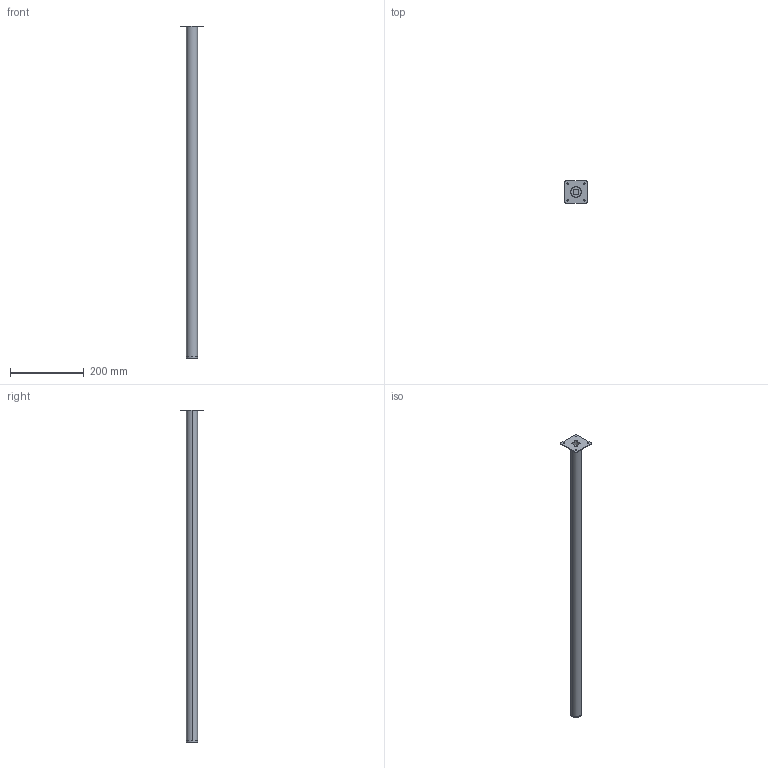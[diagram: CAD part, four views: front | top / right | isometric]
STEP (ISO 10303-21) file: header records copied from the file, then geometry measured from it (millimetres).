
FILE_DESCRIPTION( ( '' ), '1' );
FILE_NAME( 'D:/temp/hettich_stp/hettich/6.5_furniture_legs/table_legs/46275.stp', '2013-02-26T12:27:29', ( '' ), ( '' ), ' ', ' ', ' ' );
FILE_SCHEMA( ( 'automotive_design' ) );
Length unit declared in the file: millimetre
Products named in the file (1): 1
Bounding box: 60 x 60 x 900 mm (x, y, z)
Volume: 90223.2 mm3; surface area: 172055.8 mm2
Topology: 1 solids, 1 shells, 35 faces, 84 edges, 56 vertices
Faces by surface type: cylinder 20, plane 15
Entity records: 2058 total; most frequent: DIRECTION 196, STYLED_ITEM 176, PRESENTATION_STYLE_ASSIGNMENT 176, CARTESIAN_POINT 176, COLOUR_RGB 176, ORIENTED_EDGE 168, EDGE_CURVE 84, CURVE_STYLE 84
